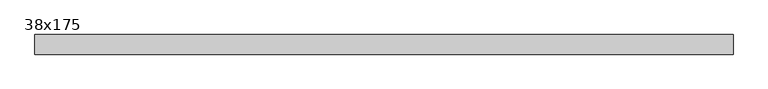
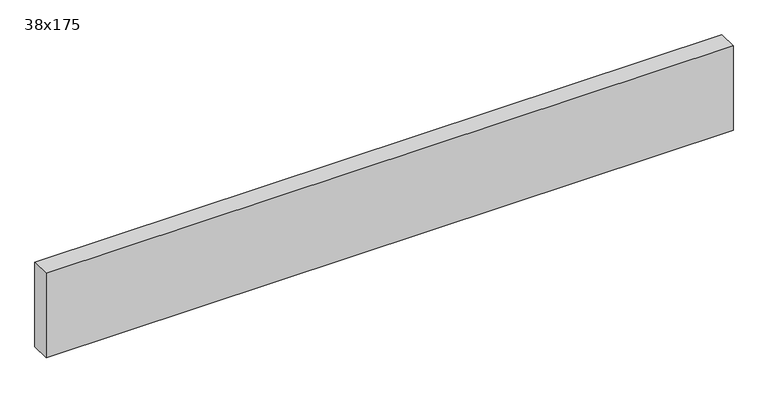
"""IFC4 building model written with IfcOpenShell, lengths in millimetres: beam geometry, Graded Timber : 38x175."""

import ifcopenshell
import ifcopenshell.guid

model = None  # the IFC model being written
_history = None  # IfcOwnerHistory: only IFC2X3 demands one
_inside = {}  # id of a spatial element -> (the spatial element, [elements in it])
_under = {}  # id of a project, library or spatial element -> (it, [spatial elements below it])
_declared = {}  # id of a project -> (the project, [libraries it declares])
_typed = {}  # id of a type object -> (the type object, [elements of that type])
_made_of = {}  # id of a material, layer set ... -> (it, [elements and type objects made of it])


def new_model(schema):
    """Start an empty IFC model of exactly this schema.

    Asked for "IFC4X3", IfcOpenShell would pick the latest addendum, in which some entities
    have other attributes; the version numbers below select the first issue.
    IFC2X3 requires an IfcOwnerHistory on every rooted entity: one is made here for all.
    """
    global model, _history
    if schema == "IFC4X3":
        model = ifcopenshell.file(schema_version=(4, 3, 0, 0))
    else:
        model = ifcopenshell.file(schema=schema)
    _inside.clear()
    _under.clear()
    _declared.clear()
    _typed.clear()
    _made_of.clear()
    _history = None
    if model.schema == "IFC2X3":
        org = make("IfcOrganization", Name="unknown")
        user = make(
            "IfcPersonAndOrganization",
            ThePerson=make("IfcPerson", FamilyName="unknown"),
            TheOrganization=org,
        )
        app = make(
            "IfcApplication",
            ApplicationDeveloper=org,
            Version="unknown",
            ApplicationFullName="unknown",
            ApplicationIdentifier="unknown",
        )
        _history = make(
            "IfcOwnerHistory",
            OwningUser=user,
            OwningApplication=app,
            ChangeAction="ADDED",
            CreationDate=0,
        )
    return model


def make(cls, **values):
    """One entity of the class cls with the attributes given. An attribute that is None is left unset."""
    return model.create_entity(
        cls, **{name: value for name, value in values.items() if value is not None}
    )


def rooted(cls, **values):
    """An entity with a GlobalId (a new one), such as an element, a storey or a relation."""
    return make(cls, GlobalId=ifcopenshell.guid.new(), OwnerHistory=_history, **values)


def si_unit(unit_type, name, prefix=None):
    """IfcSIUnit, for example si_unit("LENGTHUNIT", "METRE", prefix="MILLI")."""
    return make("IfcSIUnit", UnitType=unit_type, Prefix=prefix, Name=name)


def assignment(units):
    """IfcUnitAssignment: the units of a project."""
    return None if units is None else make("IfcUnitAssignment", Units=units)


def point(xyz):
    """IfcCartesianPoint."""
    return None if xyz is None else make("IfcCartesianPoint", Coordinates=xyz)


def direction(xyz):
    """IfcDirection."""
    return None if xyz is None else make("IfcDirection", DirectionRatios=xyz)


def frame(location, z_axis=None, x_axis=None):
    """IfcAxis2Placement3D, a coordinate frame: its origin and axes. An axis left out is left unset."""
    return make(
        "IfcAxis2Placement3D",
        Location=point(location),
        Axis=direction(z_axis),
        RefDirection=direction(x_axis),
    )


def origin():
    """The frame at (0, 0, 0) with its axes left unset."""
    return frame((0.0, 0.0, 0.0))


def place(relative_to, where):
    """IfcLocalPlacement: puts the frame where relative to a parent placement (None: the world)."""
    return make(
        "IfcLocalPlacement", PlacementRelTo=relative_to, RelativePlacement=where
    )


def context(
    kind, dimensions, precision=None, world=None, true_north=None, identifier=None
):
    """IfcGeometricRepresentationContext, for example the 3D "Model" context."""
    return make(
        "IfcGeometricRepresentationContext",
        ContextIdentifier=identifier,
        ContextType=kind,
        CoordinateSpaceDimension=dimensions,
        Precision=precision,
        WorldCoordinateSystem=world,
        TrueNorth=true_north,
    )


def project(units=None, contexts=None):
    """IfcProject with its units and contexts."""
    return rooted(
        "IfcProject",
        Name="project",
        RepresentationContexts=contexts,
        UnitsInContext=assignment(units),
    )


def spatial(cls, under=None, at=None, **own):
    """A site, building, storey or space (cls), placed at a placement, below another one or the project."""
    s = rooted(cls, ObjectPlacement=at, **own)
    if under is not None:
        _under.setdefault(under.id(), (under, []))[1].append(s)
    return s


def polyline(points):
    """IfcPolyline through the points."""
    return make("IfcPolyline", Points=[point(p) for p in points])


def outline(outer, holes=None, kind="AREA"):
    """IfcArbitraryClosedProfileDef: a profile drawn as a closed curve; with holes, ...WithVoids."""
    if holes is None:
        return make("IfcArbitraryClosedProfileDef", ProfileType=kind, OuterCurve=outer)
    return make(
        "IfcArbitraryProfileDefWithVoids",
        ProfileType=kind,
        OuterCurve=outer,
        InnerCurves=holes,
    )


def extrude(swept, where, along, depth):
    """IfcExtrudedAreaSolid: the profile swept, set in the frame where, extruded along a direction by depth."""
    return make(
        "IfcExtrudedAreaSolid",
        SweptArea=swept,
        Position=where,
        ExtrudedDirection=direction(along),
        Depth=depth,
    )


def shape(context_of_items, identifier, shape_type, items):
    """IfcShapeRepresentation: the items that make up one representation, for example the "Body"."""
    return make(
        "IfcShapeRepresentation",
        ContextOfItems=context_of_items,
        RepresentationIdentifier=identifier,
        RepresentationType=shape_type,
        Items=items,
    )


def source(mapping_origin, context_of_items, identifier, shape_type, items):
    """IfcRepresentationMap: a shape defined once, which mapped items show again and again."""
    return make(
        "IfcRepresentationMap",
        MappingOrigin=mapping_origin,
        MappedRepresentation=shape(context_of_items, identifier, shape_type, items),
    )


def transform(
    local_origin,
    x_axis=None,
    y_axis=None,
    z_axis=None,
    scale=None,
    scale2=None,
    scale3=None,
    uniform=True,
):
    """IfcCartesianTransformationOperator3D, or its non-uniform kind. x_axis, y_axis, z_axis: its Axis1, 2, 3."""
    if uniform:
        return make(
            "IfcCartesianTransformationOperator3D",
            Axis1=direction(x_axis),
            Axis2=direction(y_axis),
            LocalOrigin=point(local_origin),
            Scale=scale,
            Axis3=direction(z_axis),
        )
    return make(
        "IfcCartesianTransformationOperator3DnonUniform",
        Axis1=direction(x_axis),
        Axis2=direction(y_axis),
        LocalOrigin=point(local_origin),
        Scale=scale,
        Axis3=direction(z_axis),
        Scale2=scale2,
        Scale3=scale3,
    )


def mapped(mapping_source, mapping_target):
    """IfcMappedItem: shows the shape of a source again, moved by a transform."""
    return make(
        "IfcMappedItem", MappingSource=mapping_source, MappingTarget=mapping_target
    )


def made_of(thing, what):
    """Note that an element or type object is made of a material, layer set ...; save() writes the relation."""
    if what is not None:
        _made_of.setdefault(what.id(), (what, []))[1].append(thing)
    return thing


def element(
    cls,
    number,
    at=None,
    inside=None,
    cuts=None,
    type_object=None,
    material=None,
    context=None,
    identifier="Body",
    shape_type=None,
    held_by="IfcProductDefinitionShape",
    body=None,
    shapes=None,
    **own,
):
    """One element of the class cls, such as IfcWall. Its Tag is "e" and its number.

    at: its placement. inside: the storey or other place that contains it. cuts: it is an
    opening in that element (IfcRelVoidsElement). A single representation is given by context,
    identifier, shape_type and body (its items); several are given by shapes. held_by: the class
    of the entity that holds the representations. save() writes the other relations.
    """
    e = rooted(cls, Tag="e%d" % number, ObjectPlacement=at, **own)
    if body is not None:
        shapes = [shape(context, identifier, shape_type, body)]
    if shapes is not None:
        e.Representation = make(held_by, Representations=shapes)
    if inside is not None:
        _inside.setdefault(inside.id(), (inside, []))[1].append(e)
    if cuts is not None:
        rooted(
            "IfcRelVoidsElement", RelatingBuildingElement=cuts, RelatedOpeningElement=e
        )
    if type_object is not None:
        _typed.setdefault(type_object.id(), (type_object, []))[1].append(e)
    return made_of(e, material)


def aggregate(whole, parts):
    """IfcRelAggregates: a whole, such as a stair, and the parts it consists of."""
    return rooted("IfcRelAggregates", RelatingObject=whole, RelatedObjects=parts)


def save(model, path):
    """Write the relations noted so far, then the file.

    IfcRelAggregates (storeys below a building ...), IfcRelContainedInSpatialStructure (elements
    in a storey), IfcRelDefinesByType, IfcRelAssociatesMaterial and IfcRelDeclares: one each for
    every whole, place, type object, material and project.
    """
    for whole, parts in _under.values():
        aggregate(whole, parts)
    for where, things in _inside.values():
        rooted(
            "IfcRelContainedInSpatialStructure",
            RelatedElements=things,
            RelatingStructure=where,
        )
    for kind, things in _typed.values():
        rooted("IfcRelDefinesByType", RelatedObjects=things, RelatingType=kind)
    for what, things in _made_of.values():
        rooted("IfcRelAssociatesMaterial", RelatedObjects=things, RelatingMaterial=what)
    for by, libraries in _declared.values():
        rooted("IfcRelDeclares", RelatingContext=by, RelatedDefinitions=libraries)
    model.write(path)


def beam_38x175_494167a4(model_context):
    return source(origin(), model_context, "Body", "SweptSolid", [
        extrude(outline(polyline([(701.0000903, 19.0), (701.0000903, -19.0), (-651.0000902, -19.0), (-651.0000902, 19.0), (701.0000903, 19.0)])), frame((0.0, 0.0, -87.5), z_axis=(0.0, 0.0, 1.0), x_axis=(1.0, 0.0, 0.0)), (0.0, 0.0, 1.0), 175.0),
    ])


if __name__ == "__main__":
    model = new_model("IFC4")
    model_context = context("Model", 3, world=origin())
    ifc_project = project(units=[si_unit("LENGTHUNIT", "METRE", prefix="MILLI")], contexts=[model_context])
    site = spatial("IfcSite", under=ifc_project)
    building = spatial("IfcBuilding", under=site)
    placement = place(None, origin())
    beam_38x175_shape = beam_38x175_494167a4(model_context)
    element("IfcBeam", 1, ObjectType="Graded Timber : 38x175", at=placement, inside=building, context=model_context, shape_type="MappedRepresentation", body=[
        mapped(beam_38x175_shape, transform((0.0, 0.0, 0.0), x_axis=(1.0, 0.0, 0.0), y_axis=(0.0, 1.0, 0.0), z_axis=(0.0, 0.0, 1.0))),
    ])
    save(model, "model.ifc")
